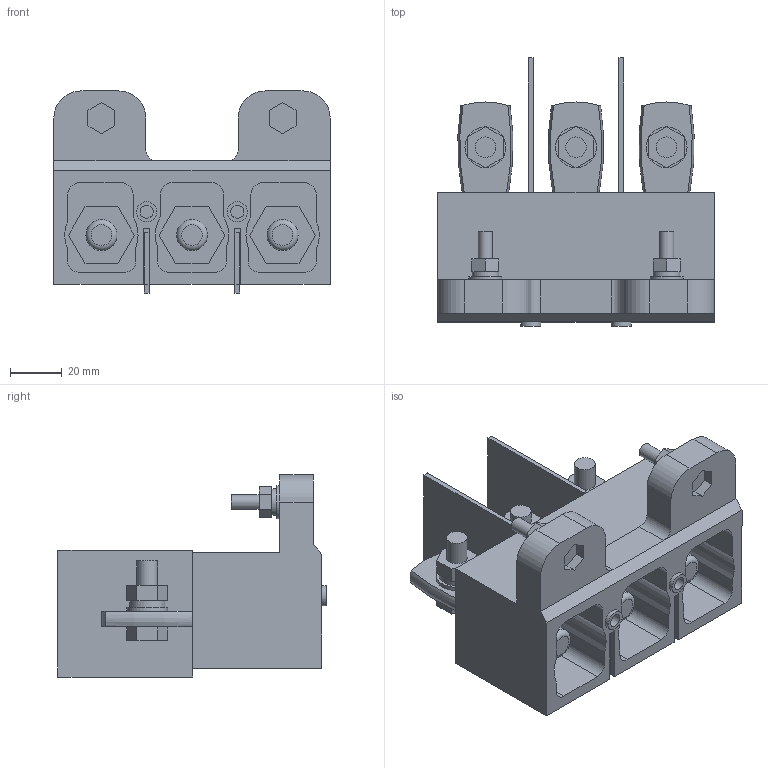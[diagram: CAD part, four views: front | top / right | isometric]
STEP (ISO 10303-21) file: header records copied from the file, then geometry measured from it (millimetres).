
FILE_DESCRIPTION(/* description */ (''),/* implementation_level */ '2;1');
FILE_NAME(/* name */ '250-3P插入后.stp',/* time_stamp */ '2018-06-14T20:20:58+08:00',/* author */ (''),/* organization */ (''),/* preprocessor_version */ 'ST-DEVELOPER v16',/* originating_system */ 'SIEMENS PLM Software NX 10.0',/* authorisation */ '');
FILE_SCHEMA (('AUTOMOTIVE_DESIGN { 1 0 10303 214 3 1 1 1 }'));
Length unit declared in the file: millimetre
Products named in the file (1): boj15BC88EFaxkr
Bounding box: 106.8 x 103.6 x 78.1 mm (x, y, z)
Volume: 209722.8 mm3; surface area: 77637.4 mm2
Topology: 3 solids, 3 shells, 398 faces, 999 edges, 666 vertices
Faces by surface type: plane 299, cylinder 78, bspline 12, torus 9
Full cylindrical faces by diameter (mm): 3 x6, 5.1 x2, 5.5 x2, 7.8 x2, 8 x3, 10.3 x2, 12 x6, 12.75 x2, 13.6 x3, 15.8 x3
Entity records: 12169 total; most frequent: CARTESIAN_POINT 2702, DIRECTION 1913, ORIENTED_EDGE 1876, EDGE_CURVE 938, LINE 701, VECTOR 701, VERTEX_POINT 651, AXIS2_PLACEMENT_3D 606
